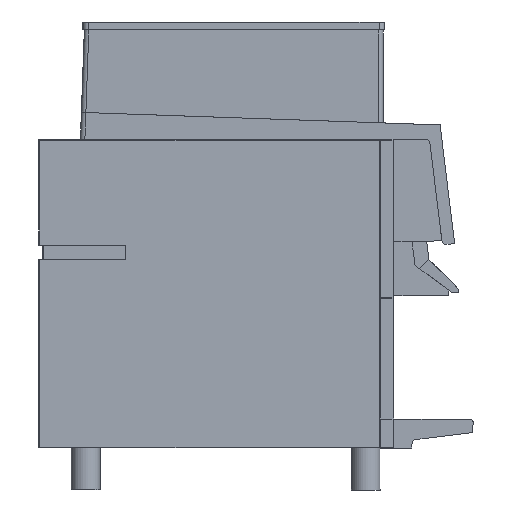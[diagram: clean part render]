
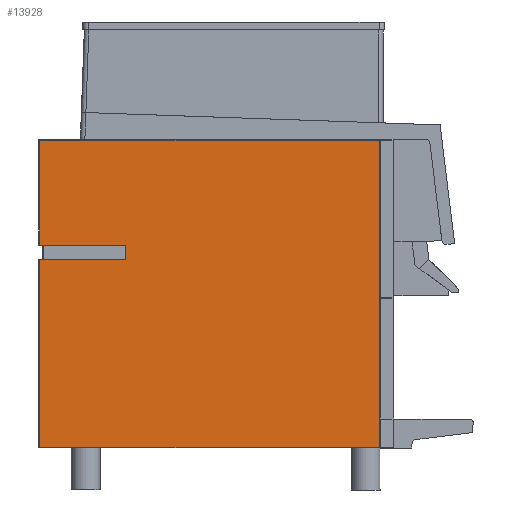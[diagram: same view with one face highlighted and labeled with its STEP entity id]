
A CAD part, left-side view. The second image highlights one B-rep face of the part: STEP entity #13928.
In plain terms, the highlighted planar face has unit normal (-1, 0, 0).
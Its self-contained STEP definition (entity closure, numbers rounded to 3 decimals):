
#2445=ORIENTED_EDGE('',*,*,#4463,.F.);
#2446=ORIENTED_EDGE('',*,*,#4568,.T.);
#2447=ORIENTED_EDGE('',*,*,#4569,.T.);
#2448=ORIENTED_EDGE('',*,*,#4570,.T.);
#2449=ORIENTED_EDGE('',*,*,#4571,.F.);
#2450=ORIENTED_EDGE('',*,*,#4572,.F.);
#2451=ORIENTED_EDGE('',*,*,#4573,.F.);
#2452=ORIENTED_EDGE('',*,*,#4574,.T.);
#2453=ORIENTED_EDGE('',*,*,#4575,.T.);
#2454=ORIENTED_EDGE('',*,*,#4576,.T.);
#4463=EDGE_CURVE('',#5640,#5641,#6669,.T.);
#4568=EDGE_CURVE('',#5640,#5720,#6757,.T.);
#4569=EDGE_CURVE('',#5720,#5721,#6758,.F.);
#4570=EDGE_CURVE('',#5721,#5722,#6759,.F.);
#4571=EDGE_CURVE('',#5723,#5722,#6760,.T.);
#4572=EDGE_CURVE('',#5724,#5723,#6761,.T.);
#4573=EDGE_CURVE('',#5725,#5724,#6762,.T.);
#4574=EDGE_CURVE('',#5725,#5726,#6763,.T.);
#4575=EDGE_CURVE('',#5726,#5727,#6764,.T.);
#4576=EDGE_CURVE('',#5727,#5641,#6765,.F.);
#5640=VERTEX_POINT('',#19826);
#5641=VERTEX_POINT('',#19828);
#5720=VERTEX_POINT('',#20037);
#5721=VERTEX_POINT('',#20039);
#5722=VERTEX_POINT('',#20041);
#5723=VERTEX_POINT('',#20043);
#5724=VERTEX_POINT('',#20045);
#5725=VERTEX_POINT('',#20047);
#5726=VERTEX_POINT('',#20049);
#5727=VERTEX_POINT('',#20051);
#6669=LINE('',#19827,#7825);
#6757=LINE('',#20036,#7913);
#6758=LINE('',#20038,#7914);
#6759=LINE('',#20040,#7915);
#6760=LINE('',#20042,#7916);
#6761=LINE('',#20044,#7917);
#6762=LINE('',#20046,#7918);
#6763=LINE('',#20048,#7919);
#6764=LINE('',#20050,#7920);
#6765=LINE('',#20052,#7921);
#7825=VECTOR('',#16811,1000.);
#7913=VECTOR('',#16983,1000.);
#7914=VECTOR('',#16984,1000.);
#7915=VECTOR('',#16985,1000.);
#7916=VECTOR('',#16986,1000.);
#7917=VECTOR('',#16987,1000.);
#7918=VECTOR('',#16988,1000.);
#7919=VECTOR('',#16989,1000.);
#7920=VECTOR('',#16990,1000.);
#7921=VECTOR('',#16991,1000.);
#8600=EDGE_LOOP('',(#2445,#2446,#2447,#2448,#2449,#2450,#2451,#2452,#2453,
#2454));
#9178=FACE_BOUND('',#8600,.T.);
#9642=PLANE('',#14718);
#13928=ADVANCED_FACE('',(#9178),#9642,.F.);
#14718=AXIS2_PLACEMENT_3D('',#20035,#16981,#16982);
#16811=DIRECTION('',(0.,1.,0.));
#16981=DIRECTION('',(1.,0.,0.));
#16982=DIRECTION('',(0.,1.,0.));
#16983=DIRECTION('',(0.,0.,1.));
#16984=DIRECTION('',(0.,-1.,0.));
#16985=DIRECTION('',(0.,0.,1.));
#16986=DIRECTION('',(0.,1.,0.));
#16987=DIRECTION('',(0.,1.,0.));
#16988=DIRECTION('',(0.,0.,1.));
#16989=DIRECTION('',(0.,1.,0.));
#16990=DIRECTION('',(0.,1.,0.));
#16991=DIRECTION('',(0.,0.,1.));
#19826=CARTESIAN_POINT('',(-114.,-470.,0.));
#19827=CARTESIAN_POINT('',(-114.,-490.,0.));
#19828=CARTESIAN_POINT('',(-114.,-1.2,0.));
#20035=CARTESIAN_POINT('',(-114.,0.,0.));
#20036=CARTESIAN_POINT('',(-114.,-470.,420.5));
#20037=CARTESIAN_POINT('',(-114.,-470.,424.8));
#20038=CARTESIAN_POINT('',(-114.,0.,424.8));
#20039=CARTESIAN_POINT('',(-114.,-1.2,424.8));
#20040=CARTESIAN_POINT('',(-114.,-1.2,0.));
#20041=CARTESIAN_POINT('',(-114.,-1.2,280.));
#20042=CARTESIAN_POINT('',(-114.,-5.,280.));
#20043=CARTESIAN_POINT('',(-114.,-5.133,280.));
#20044=CARTESIAN_POINT('',(-114.,-120.,280.));
#20045=CARTESIAN_POINT('',(-114.,-120.,280.));
#20046=CARTESIAN_POINT('',(-114.,-120.,260.));
#20047=CARTESIAN_POINT('',(-114.,-120.,260.));
#20048=CARTESIAN_POINT('',(-114.,-120.,260.));
#20049=CARTESIAN_POINT('',(-114.,-5.133,260.));
#20050=CARTESIAN_POINT('',(-114.,-5.,260.));
#20051=CARTESIAN_POINT('',(-114.,-1.2,260.));
#20052=CARTESIAN_POINT('',(-114.,-1.2,0.));
